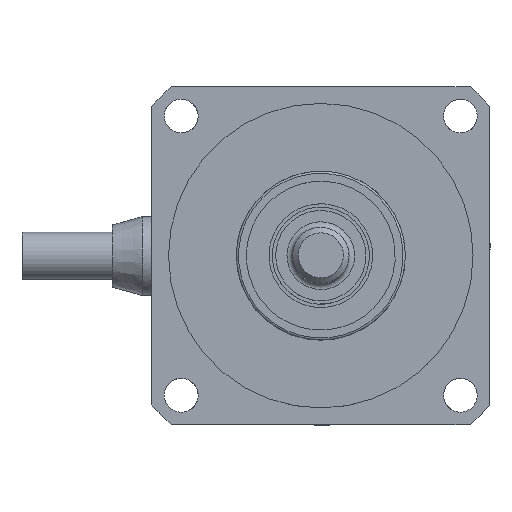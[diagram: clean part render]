
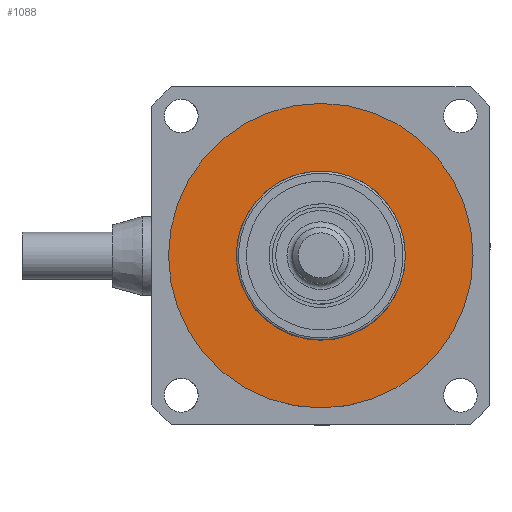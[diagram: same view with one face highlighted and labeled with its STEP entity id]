
A CAD part, top view. The second image highlights one B-rep face of the part: STEP entity #1088.
In plain terms, the highlighted planar face has unit normal (0, 0, 1).
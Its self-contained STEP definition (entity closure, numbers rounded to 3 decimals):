
#1088=ADVANCED_FACE('',(#2128,#2129),#2130,.T.);
#2128=FACE_BOUND('',#3165,.T.);
#2129=FACE_OUTER_BOUND('',#3166,.T.);
#2130=PLANE('',#3167);
#3165=EDGE_LOOP('',(#5164));
#3166=EDGE_LOOP('',(#5165));
#3167=AXIS2_PLACEMENT_3D('',#5166,#5167,#5168);
#5164=ORIENTED_EDGE('',*,*,#6036,.F.);
#5165=ORIENTED_EDGE('',*,*,#6038,.T.);
#5166=CARTESIAN_POINT('',(0.0,0.0,6.0));
#5167=DIRECTION('',(0.0,0.0,1.0));
#5168=DIRECTION('',(1.0,0.0,0.0));
#6036=EDGE_CURVE('',#7164,#7164,#7165,.T.);
#6038=EDGE_CURVE('',#7167,#7167,#7168,.T.);
#7164=VERTEX_POINT('',#9258);
#7165=CIRCLE('',#9259,7.5);
#7167=VERTEX_POINT('',#9261);
#7168=CIRCLE('',#9262,13.5);
#9258=CARTESIAN_POINT('',(-7.5,0.0,6.0));
#9259=AXIS2_PLACEMENT_3D('',#10189,#10190,#10191);
#9261=CARTESIAN_POINT('',(13.5,0.0,6.0));
#9262=AXIS2_PLACEMENT_3D('',#10192,#10193,#10194);
#10189=CARTESIAN_POINT('',(0.0,0.0,6.0));
#10190=DIRECTION('',(0.0,0.0,1.0));
#10191=DIRECTION('',(-1.0,0.0,0.0));
#10192=CARTESIAN_POINT('',(0.0,0.0,6.0));
#10193=DIRECTION('',(0.0,0.0,1.0));
#10194=DIRECTION('',(1.0,0.0,0.0));
